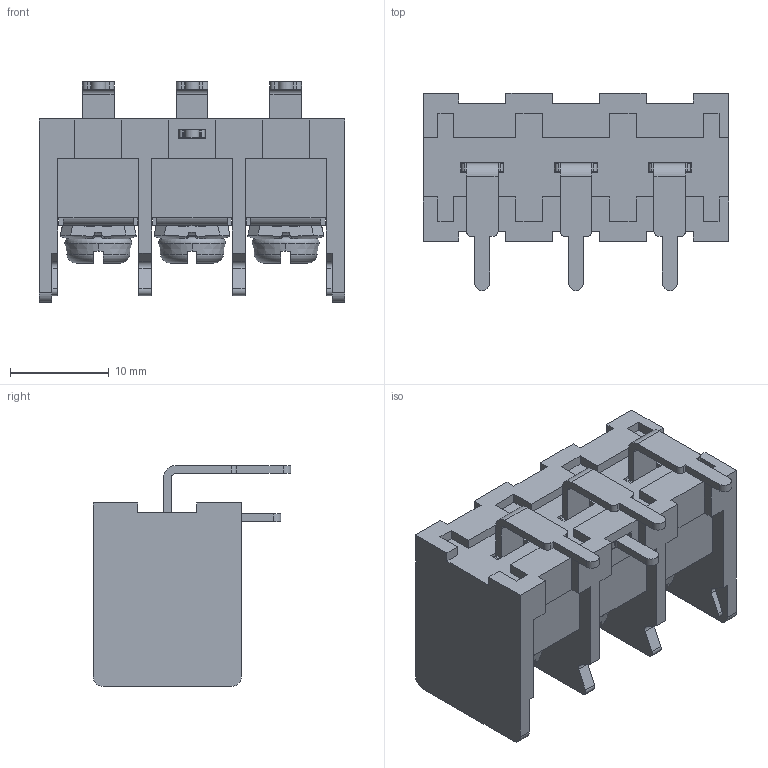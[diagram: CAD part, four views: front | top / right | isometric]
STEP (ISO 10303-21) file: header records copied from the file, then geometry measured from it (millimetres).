
FILE_DESCRIPTION((''),'2;1');
FILE_NAME('3PIN','2021-05-08T',('hanke'),(''),'CREO PARAMETRIC BY PTC INC, 2016260','CREO PARAMETRIC BY PTC INC, 2016260','');
FILE_SCHEMA(('CONFIG_CONTROL_DESIGN'));
Products named in the file (1): 3PIN
Bounding box: 31 x 20 x 22.4 mm (x, y, z)
Volume: 3984.5 mm3; surface area: 6792.6 mm2
Topology: 1 solids, 1 shells, 1131 faces, 3541 edges, 2321 vertices
Faces by surface type: plane 705, cylinder 231, bspline 153, cone 24, torus 18
Entity records: 61301 total; most frequent: CARTESIAN_POINT 31413, ORIENTED_EDGE 7070, DIRECTION 5189, EDGE_CURVE 3535, VERTEX_POINT 2321, VECTOR 2127, LINE 2127, AXIS2_PLACEMENT_3D 1531
